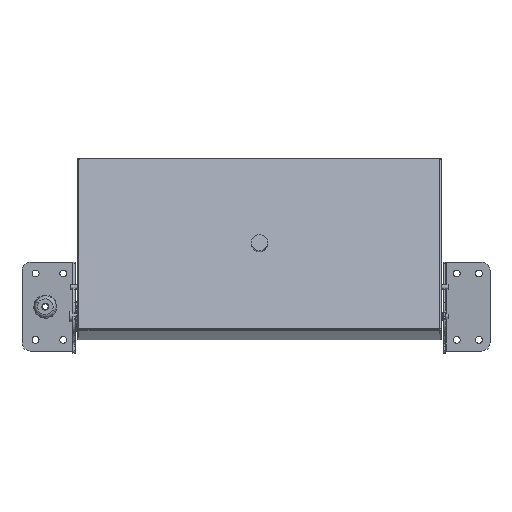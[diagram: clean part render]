
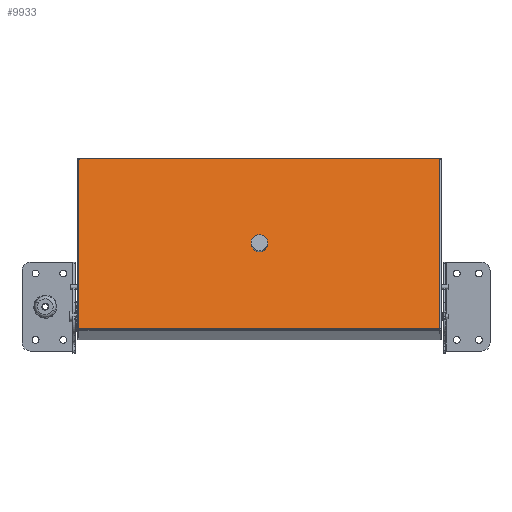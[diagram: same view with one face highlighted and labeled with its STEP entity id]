
A CAD part, top view. The second image highlights one B-rep face of the part: STEP entity #9933.
In plain terms, the highlighted planar face has unit normal (0, 0.212, 0.977) as drawn and (0, -0.99, 0.138) by its records, which use the part's own axes.
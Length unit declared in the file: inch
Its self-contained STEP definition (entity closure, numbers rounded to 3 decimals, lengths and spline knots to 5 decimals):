
#169 = ORIENTED_EDGE ( 'NONE', *, *, #2307, .T. ) ;
#200 = AXIS2_PLACEMENT_3D ( 'NONE', #5202, #12189, #6202 ) ;
#494 = VERTEX_POINT ( 'NONE', #8183 ) ;
#578 = VERTEX_POINT ( 'NONE', #7947 ) ;
#667 = CARTESIAN_POINT ( 'NONE',  ( 8.14, -1.05095, 8.05684 ) ) ;
#881 = VERTEX_POINT ( 'NONE', #667 ) ;
#1030 = FACE_OUTER_BOUND ( 'NONE', #10518, .T. ) ;
#1051 = VECTOR ( 'NONE', #11061, 39.37008 ) ;
#1070 = EDGE_CURVE ( 'NONE', #881, #494, #11045, .T. ) ;
#1131 = CARTESIAN_POINT ( 'NONE',  ( -8.08, -1.04266, 8.11626 ) ) ;
#1355 = ORIENTED_EDGE ( 'NONE', *, *, #2978, .F. ) ;
#1562 = VECTOR ( 'NONE', #2600, 39.37008 ) ;
#1754 = AXIS2_PLACEMENT_3D ( 'NONE', #10901, #7924, #1993 ) ;
#1993 = DIRECTION ( 'NONE',  ( 0., -0.138, -0.99 ) ) ;
#2123 = DIRECTION ( 'NONE',  ( 0., -0.99, 0.138 ) ) ;
#2209 = VERTEX_POINT ( 'NONE', #1131 ) ;
#2307 = EDGE_CURVE ( 'NONE', #12213, #9555, #9962, .T. ) ;
#2600 = DIRECTION ( 'NONE',  ( -1., 0., 0. ) ) ;
#2644 = EDGE_CURVE ( 'NONE', #494, #2209, #9482, .T. ) ;
#2978 = EDGE_CURVE ( 'NONE', #10564, #5577, #4320, .T. ) ;
#3079 = CARTESIAN_POINT ( 'NONE',  ( -8.08, -1.05095, 8.05684 ) ) ;
#3273 = DIRECTION ( 'NONE',  ( 1., 0., 0. ) ) ;
#3625 = FACE_BOUND ( 'NONE', #8770, .T. ) ;
#3692 = CARTESIAN_POINT ( 'NONE',  ( 8.08, -1.05095, 8.05684 ) ) ;
#3818 = DIRECTION ( 'NONE',  ( 0., -0.138, -0.99 ) ) ;
#3844 = DIRECTION ( 'NONE',  ( 0., -0.99, 0.138 ) ) ;
#3921 = CARTESIAN_POINT ( 'NONE',  ( 8.14, -1.05095, 8.05684 ) ) ;
#3980 = DIRECTION ( 'NONE',  ( 0., -0.99, 0.138 ) ) ;
#4066 = EDGE_CURVE ( 'NONE', #578, #12213, #10774, .T. ) ;
#4075 = DIRECTION ( 'NONE',  ( 0., -0.138, -0.99 ) ) ;
#4320 = CIRCLE ( 'NONE', #4690, 0.375 ) ;
#4421 = CARTESIAN_POINT ( 'NONE',  ( 0., -1.5851, 4.22775 ) ) ;
#4644 = VECTOR ( 'NONE', #3273, 39.37008 ) ;
#4690 = AXIS2_PLACEMENT_3D ( 'NONE', #8049, #2123, #9058 ) ;
#4796 = CIRCLE ( 'NONE', #200, 0.06 ) ;
#4823 = ORIENTED_EDGE ( 'NONE', *, *, #8661, .T. ) ;
#4932 = DIRECTION ( 'NONE',  ( 0., 0.138, 0.99 ) ) ;
#5202 = CARTESIAN_POINT ( 'NONE',  ( 8.08, -2.11924, 0.39867 ) ) ;
#5432 = DIRECTION ( 'NONE',  ( 0., -0.138, -0.99 ) ) ;
#5577 = VERTEX_POINT ( 'NONE', #7283 ) ;
#6202 = DIRECTION ( 'NONE',  ( 0., 0.138, 0.99 ) ) ;
#6209 = EDGE_CURVE ( 'NONE', #9555, #11118, #4796, .T. ) ;
#6239 = CARTESIAN_POINT ( 'NONE',  ( 8.08, -2.12753, 0.33924 ) ) ;
#6241 = VERTEX_POINT ( 'NONE', #10225 ) ;
#6762 = ORIENTED_EDGE ( 'NONE', *, *, #4066, .T. ) ;
#6795 = AXIS2_PLACEMENT_3D ( 'NONE', #9976, #3980, #10968 ) ;
#6940 = PLANE ( 'NONE',  #1754 ) ;
#7283 = CARTESIAN_POINT ( 'NONE',  ( 0., -1.53329, 4.59916 ) ) ;
#7924 = DIRECTION ( 'NONE',  ( 0., -0.99, 0.138 ) ) ;
#7947 = CARTESIAN_POINT ( 'NONE',  ( -8.14, -2.11924, 0.39867 ) ) ;
#8039 = CARTESIAN_POINT ( 'NONE',  ( -8.14, -2.11924, 0.39867 ) ) ;
#8049 = CARTESIAN_POINT ( 'NONE',  ( 0., -1.5851, 4.22775 ) ) ;
#8183 = CARTESIAN_POINT ( 'NONE',  ( 8.08, -1.04266, 8.11626 ) ) ;
#8343 = ORIENTED_EDGE ( 'NONE', *, *, #9913, .T. ) ;
#8661 = EDGE_CURVE ( 'NONE', #6241, #578, #9260, .T. ) ;
#8770 = EDGE_LOOP ( 'NONE', ( #11289, #1355 ) ) ;
#8847 = AXIS2_PLACEMENT_3D ( 'NONE', #3692, #3844, #3818 ) ;
#8856 = CARTESIAN_POINT ( 'NONE',  ( 8.14, -2.11924, 0.39867 ) ) ;
#9058 = DIRECTION ( 'NONE',  ( 0., -0.138, -0.99 ) ) ;
#9260 = LINE ( 'NONE', #8039, #1051 ) ;
#9482 = LINE ( 'NONE', #11524, #1562 ) ;
#9512 = EDGE_CURVE ( 'NONE', #5577, #10564, #12058, .T. ) ;
#9555 = VERTEX_POINT ( 'NONE', #10439 ) ;
#9913 = EDGE_CURVE ( 'NONE', #11118, #881, #12214, .T. ) ;
#9933 = ADVANCED_FACE ( 'NONE', ( #3625, #1030 ), #6940, .T. ) ;
#9962 = LINE ( 'NONE', #6239, #4644 ) ;
#9976 = CARTESIAN_POINT ( 'NONE',  ( -8.08, -2.11924, 0.39867 ) ) ;
#10068 = DIRECTION ( 'NONE',  ( 0., -0.99, 0.138 ) ) ;
#10225 = CARTESIAN_POINT ( 'NONE',  ( -8.14, -1.05095, 8.05684 ) ) ;
#10427 = ORIENTED_EDGE ( 'NONE', *, *, #1070, .T. ) ;
#10439 = CARTESIAN_POINT ( 'NONE',  ( 8.08, -2.12753, 0.33924 ) ) ;
#10518 = EDGE_LOOP ( 'NONE', ( #6762, #169, #12019, #8343, #10427, #11095, #10868, #4823 ) ) ;
#10564 = VERTEX_POINT ( 'NONE', #11096 ) ;
#10774 = CIRCLE ( 'NONE', #6795, 0.06 ) ;
#10868 = ORIENTED_EDGE ( 'NONE', *, *, #12761, .T. ) ;
#10901 = CARTESIAN_POINT ( 'NONE',  ( -8.08, -2.11924, 0.39867 ) ) ;
#10902 = AXIS2_PLACEMENT_3D ( 'NONE', #4421, #11397, #5432 ) ;
#10968 = DIRECTION ( 'NONE',  ( 0., -0.138, -0.99 ) ) ;
#11027 = CARTESIAN_POINT ( 'NONE',  ( -8.08, -2.12753, 0.33924 ) ) ;
#11045 = CIRCLE ( 'NONE', #8847, 0.06 ) ;
#11061 = DIRECTION ( 'NONE',  ( 0., -0.138, -0.99 ) ) ;
#11095 = ORIENTED_EDGE ( 'NONE', *, *, #2644, .T. ) ;
#11096 = CARTESIAN_POINT ( 'NONE',  ( 0., -1.63691, 3.85635 ) ) ;
#11118 = VERTEX_POINT ( 'NONE', #8856 ) ;
#11289 = ORIENTED_EDGE ( 'NONE', *, *, #9512, .F. ) ;
#11397 = DIRECTION ( 'NONE',  ( 0., -0.99, 0.138 ) ) ;
#11524 = CARTESIAN_POINT ( 'NONE',  ( -8.08, -1.04266, 8.11626 ) ) ;
#11590 = VECTOR ( 'NONE', #4932, 39.37008 ) ;
#12019 = ORIENTED_EDGE ( 'NONE', *, *, #6209, .T. ) ;
#12058 = CIRCLE ( 'NONE', #10902, 0.375 ) ;
#12189 = DIRECTION ( 'NONE',  ( 0., -0.99, 0.138 ) ) ;
#12213 = VERTEX_POINT ( 'NONE', #11027 ) ;
#12214 = LINE ( 'NONE', #3921, #11590 ) ;
#12326 = CIRCLE ( 'NONE', #12452, 0.06 ) ;
#12452 = AXIS2_PLACEMENT_3D ( 'NONE', #3079, #10068, #4075 ) ;
#12761 = EDGE_CURVE ( 'NONE', #2209, #6241, #12326, .T. ) ;
